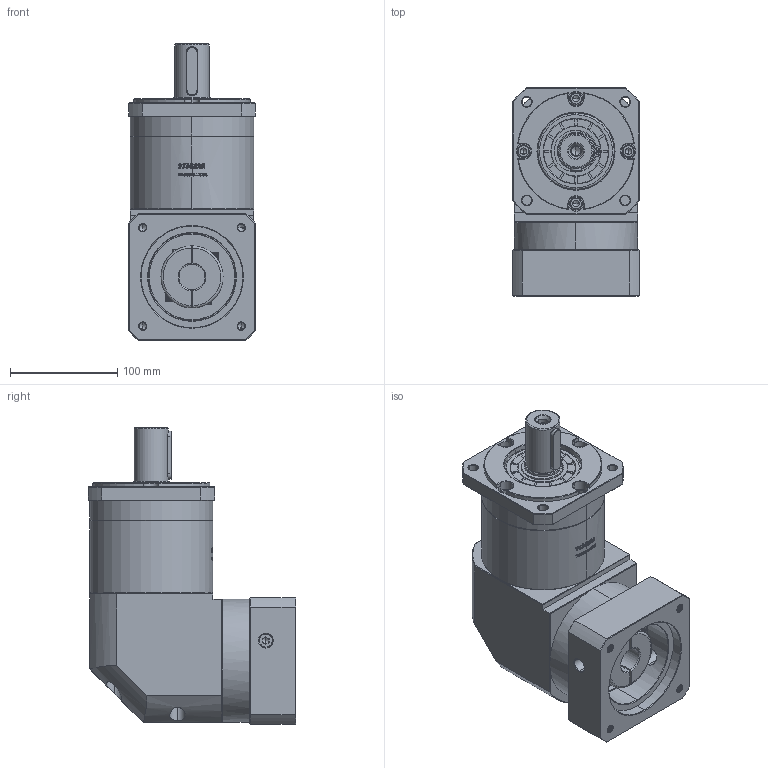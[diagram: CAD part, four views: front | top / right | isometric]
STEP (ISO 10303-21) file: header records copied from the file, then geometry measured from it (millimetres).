
FILE_DESCRIPTION (( 'STEP AP214' ), '1' );
FILE_NAME ('ZFR120A-D32-L2-24-95-130-M8.step', '2023-03-08T08:26:51', ( '' ), ( '' ), 'SwSTEP 2.0', 'SolidWorks 2016', '' );
FILE_SCHEMA (( 'AUTOMOTIVE_DESIGN' ));
Length unit declared in the file: millimetre
Products named in the file (1): ZFR120A-D32-L2-24-95-130-M8
Bounding box: 118 x 193.9 x 276.5 mm (x, y, z)
Volume: 3205978.4 mm3; surface area: 255201.3 mm2
Topology: 6 solids, 6 shells, 2870 faces, 7680 edges, 4955 vertices
Faces by surface type: plane 1484, bspline 606, cylinder 434, cone 338, torus 8
Entity records: 158167 total; most frequent: CARTESIAN_POINT 60754, ORIENTED_EDGE 15300, DIRECTION 11132, EDGE_CURVE 7650, VERTEX_POINT 4955, VECTOR 4750, LINE 4750, AXIS2_PLACEMENT_3D 3191
